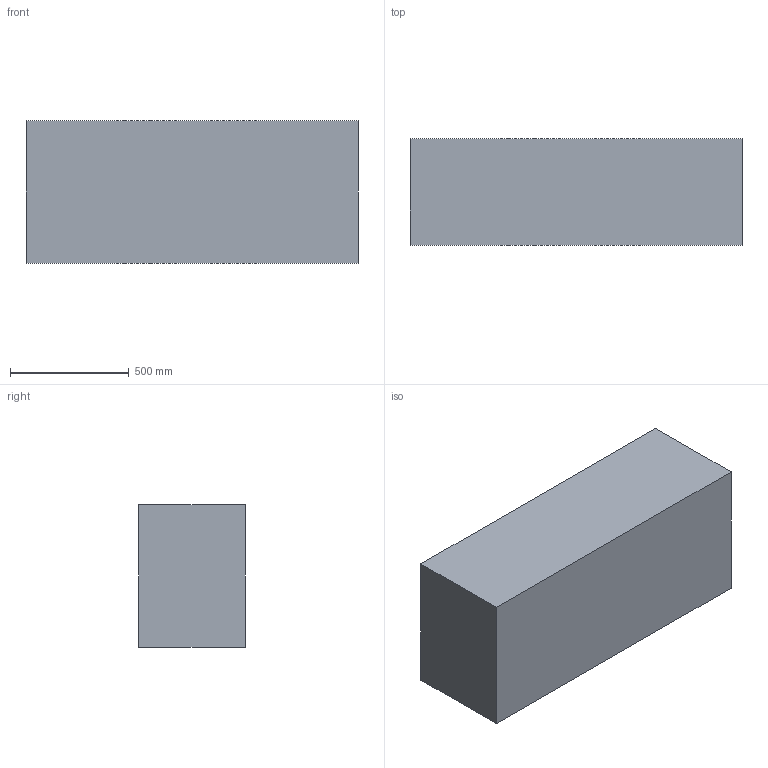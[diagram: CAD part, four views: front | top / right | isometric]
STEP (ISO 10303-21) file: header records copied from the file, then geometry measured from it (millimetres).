
FILE_DESCRIPTION (( 'STEP AP203' ), '1' );
FILE_NAME ('CL_03_Hydraulic_Clamping_Actuator_Yoke.STEP', '2026-10-28T18:33:59', ( '' ), ( '' ), 'SwSTEP 2.0', 'SolidWorks 2026', '' );
FILE_SCHEMA (( 'CONFIG_CONTROL_DESIGN' ));
Length unit declared in the file: inch
Products named in the file (1): CL_03_Hydraulic_Clamping_Actuator_Yoke
Bounding box: 1400 x 450 x 600 mm (x, y, z)
Volume: 378000000 mm3; surface area: 3480000 mm2
Topology: 1 solids, 1 shells, 6 faces, 12 edges, 8 vertices
Faces by surface type: plane 6
Entity records: 235 total; most frequent: CARTESIAN_POINT 27, DIRECTION 26, ORIENTED_EDGE 24, VECTOR 12, EDGE_CURVE 12, LINE 12, PERSON_AND_ORGANIZATION 8, VERTEX_POINT 8
